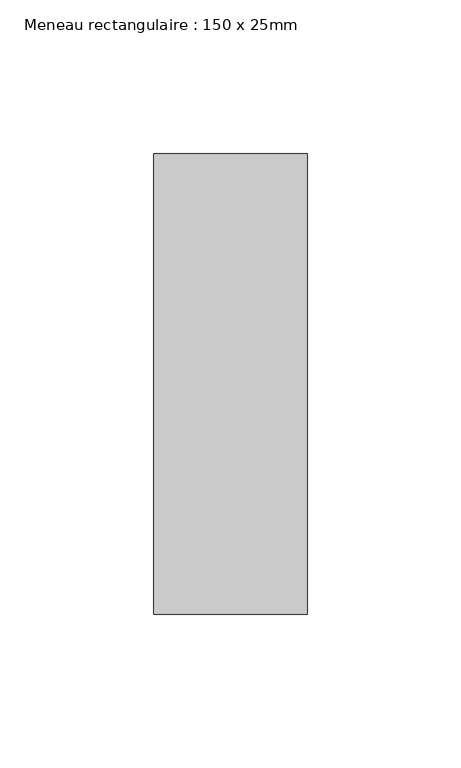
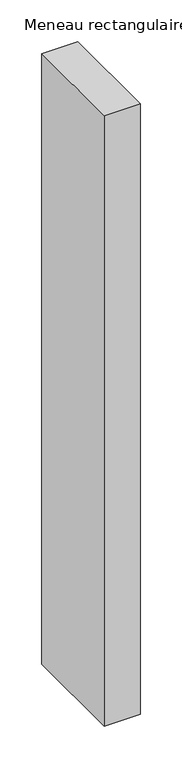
"""IFC4 building model written with IfcOpenShell, lengths in millimetres: member geometry, Meneau rectangulaire : 150 x 25mm."""

from ifc_helpers import new_model, si_unit, frame, origin, place, context, project, spatial, polyline, outline, extrude, source, transform, mapped, element, save


def meneau_rectangulaire_150_x_25mm_1c515dbf(model_context):
    return source(origin(), model_context, "Body", "SweptSolid", [
        extrude(outline(polyline([(0.0, 75.0), (0.0, -75.0), (-50.0, -75.0), (-50.0, 75.0), (0.0, 75.0)])), frame((0.0, 0.0, -895.4922783), z_axis=(0.0, 0.0, 1.0), x_axis=(1.0, 0.0, 0.0)), (0.0, 0.0, 1.0), 895.4922783),
    ])


if __name__ == "__main__":
    model = new_model("IFC4")
    model_context = context("Model", 3, world=origin())
    ifc_project = project(units=[si_unit("LENGTHUNIT", "METRE", prefix="MILLI")], contexts=[model_context])
    site = spatial("IfcSite", under=ifc_project)
    building = spatial("IfcBuilding", under=site)
    placement = place(None, origin())
    meneau_rectangulaire_150_x_25mm_shape = meneau_rectangulaire_150_x_25mm_1c515dbf(model_context)
    element("IfcMember", 1, ObjectType="Meneau rectangulaire : 150 x 25mm", at=placement, inside=building, context=model_context, shape_type="MappedRepresentation", body=[
        mapped(meneau_rectangulaire_150_x_25mm_shape, transform((0.0, 0.0, 0.0), x_axis=(1.0, 0.0, 0.0), y_axis=(0.0, 1.0, 0.0), z_axis=(0.0, 0.0, 1.0))),
    ])
    save(model, "model.ifc")
